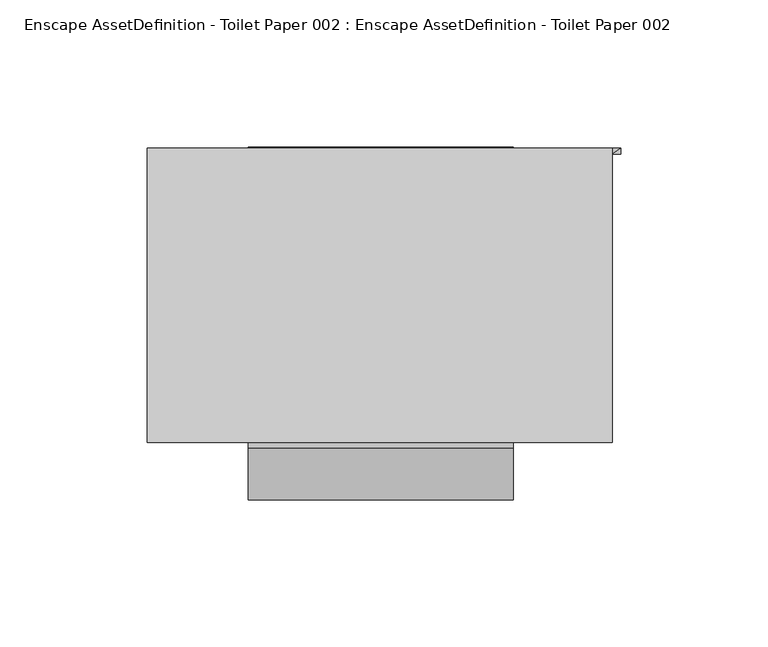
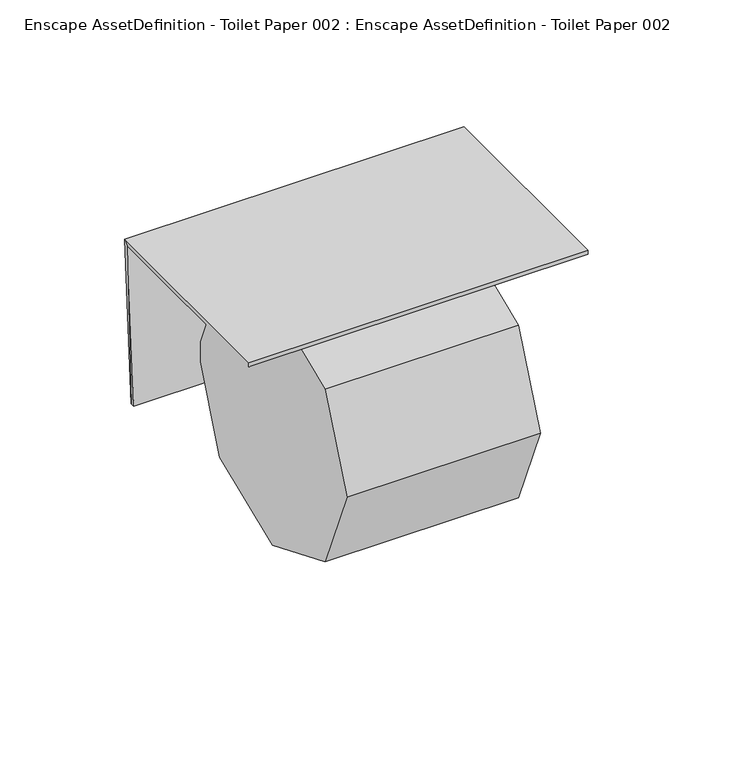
"""IFC4 building model written with IfcOpenShell, lengths in millimetres: geographic element geometry, Enscape AssetDefinition - Toilet Paper 002 : Enscape AssetDefinition - Toilet Paper 002."""

from ifc_helpers import new_model, si_unit, origin, place, context, project, spatial, triangles, source, transform, mapped, element, save


def enscape_assetdefinition_toilet_paper_002_enscape_c57897bd(model_context):
    return source(origin(), model_context, "Body", "Tessellation", [
        triangles([(79.0000017, -2.0000001, 50.0170006), (79.0000017, -100.0000008, 50.0170006), (82.0000003, -2.0000001, -29.9999993), (79.0000017, 0.0, 52.0000009), (-75.9999986, 0.0, -29.9999993), (-75.9999986, -2.0000001, -29.9999993), (-79.0000017, -100.0000008, 52.0000009), (-79.0000017, 0.0, 52.0000009), (79.0000017, -100.0000008, 52.0000009), (-79.0000017, -100.0000008, 50.0170006), (-79.0000017, -2.0000001, 50.0170006), (82.0000003, 0.0, -29.9999993), (-44.6229985, -59.5990011, 45.5820015), (45.3769995, -17.1730002, 28.0089985), (45.3769995, -102.0260036, -56.8440003), (45.3769995, -17.1730002, -56.8440003), (45.3769995, -102.0260036, 28.0089985), (45.3769995, -59.5990011, 45.5820015), (45.3769995, -119.5989952, -14.4180005), (-44.6229985, -119.5989952, -14.4180005), (45.3769995, -59.5990011, -74.4180003), (-44.6229985, -102.0260036, 28.0089985), (-44.6229985, -102.0260036, -56.8440003), (-44.6229985, -59.5990011, -74.4180003), (-44.6229985, -17.1730002, -56.8440003), (-44.6229985, 0.401, -14.4180005), (45.3769995, 0.401, -14.4180005), (-44.6229985, -17.1730002, 28.0089985)], [[27, 26, 28], [16, 26, 27], [16, 25, 26], [26, 25, 13], [13, 28, 26], [25, 24, 13], [16, 24, 25], [16, 21, 24], [21, 23, 24], [20, 22, 13], [24, 23, 20], [24, 20, 13], [15, 21, 16], [21, 15, 23], [15, 20, 23], [15, 19, 20], [19, 22, 20], [19, 17, 22], [18, 13, 22], [18, 22, 17], [16, 27, 14], [19, 15, 14], [17, 19, 14], [14, 18, 17], [14, 28, 13], [15, 16, 14], [27, 28, 14], [14, 13, 18], [1, 3, 12], [11, 8, 5], [4, 12, 5], [6, 5, 12], [1, 11, 6], [8, 7, 9], [1, 2, 10], [9, 7, 10], [1, 4, 9], [7, 8, 11], [1, 12, 4], [11, 5, 6], [4, 5, 8], [6, 12, 3], [1, 6, 3], [8, 9, 4], [1, 10, 11], [9, 10, 2], [1, 9, 2], [7, 11, 10]]),
    ])


if __name__ == "__main__":
    model = new_model("IFC4")
    model_context = context("Model", 3, world=origin())
    ifc_project = project(units=[si_unit("LENGTHUNIT", "METRE", prefix="MILLI")], contexts=[model_context])
    site = spatial("IfcSite", under=ifc_project)
    building = spatial("IfcBuilding", under=site)
    placement = place(None, origin())
    enscape_assetdefinition_toilet_paper_002_enscape_shape = enscape_assetdefinition_toilet_paper_002_enscape_c57897bd(model_context)
    element("IfcGeographicElement", 1, ObjectType="Enscape AssetDefinition - Toilet Paper 002 : Enscape AssetDefinition - Toilet Paper 002", at=placement, inside=building, context=model_context, shape_type="MappedRepresentation", body=[
        mapped(enscape_assetdefinition_toilet_paper_002_enscape_shape, transform((0.0, 0.0, 0.0), x_axis=(1.0, 0.0, 0.0), y_axis=(0.0, 1.0, 0.0), z_axis=(0.0, 0.0, 1.0))),
    ])
    save(model, "model.ifc")
